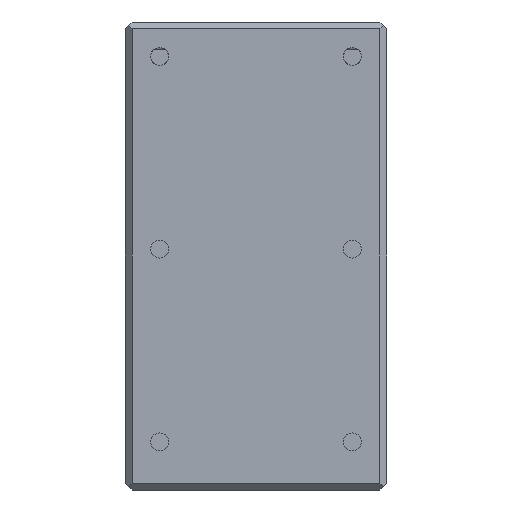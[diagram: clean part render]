
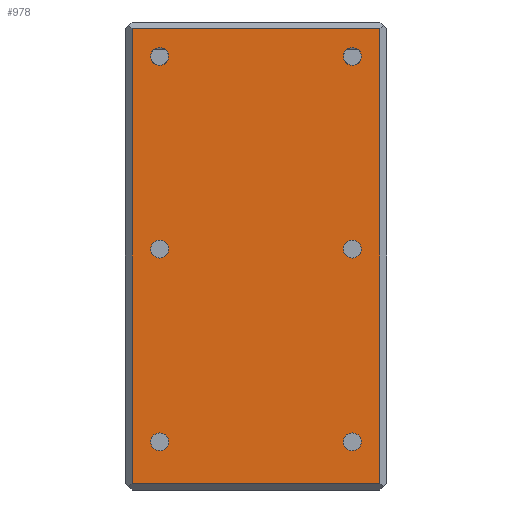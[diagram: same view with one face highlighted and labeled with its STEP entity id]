
A CAD part, front view. The second image highlights one B-rep face of the part: STEP entity #978.
In plain terms, the highlighted planar face has unit normal (0, -1, 0) as drawn and (0, 0, 1) by its records, which use the part's own axes.
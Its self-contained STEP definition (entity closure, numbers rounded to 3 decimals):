
#531=FACE_BOUND('',#3451,.T.);
#532=FACE_BOUND('',#3452,.T.);
#533=FACE_BOUND('',#3453,.T.);
#534=FACE_BOUND('',#3454,.T.);
#535=FACE_BOUND('',#3455,.T.);
#536=FACE_BOUND('',#3456,.T.);
#537=FACE_BOUND('',#3457,.T.);
#794=CIRCLE('',#17383,1.297);
#808=CIRCLE('',#17414,1.297);
#810=CIRCLE('',#17417,1.297);
#817=CIRCLE('',#17431,1.297);
#829=CIRCLE('',#17457,1.297);
#830=CIRCLE('',#17459,1.297);
#978=ADVANCED_FACE('',(#531,#532,#533,#534,#535,#536,#537),#1870,.T.);
#1870=PLANE('',#17460);
#3451=EDGE_LOOP('',(#5294));
#3452=EDGE_LOOP('',(#5295));
#3453=EDGE_LOOP('',(#5296));
#3454=EDGE_LOOP('',(#5297));
#3455=EDGE_LOOP('',(#5298));
#3456=EDGE_LOOP('',(#5299));
#3457=EDGE_LOOP('',(#5300,#5301,#5302,#5303));
#5294=ORIENTED_EDGE('',*,*,#11420,.T.);
#5295=ORIENTED_EDGE('',*,*,#11419,.T.);
#5296=ORIENTED_EDGE('',*,*,#11399,.T.);
#5297=ORIENTED_EDGE('',*,*,#11390,.T.);
#5298=ORIENTED_EDGE('',*,*,#11388,.T.);
#5299=ORIENTED_EDGE('',*,*,#11367,.T.);
#5300=ORIENTED_EDGE('',*,*,#11328,.T.);
#5301=ORIENTED_EDGE('',*,*,#11358,.T.);
#5302=ORIENTED_EDGE('',*,*,#11320,.T.);
#5303=ORIENTED_EDGE('',*,*,#11341,.T.);
#9724=VERTEX_POINT('',#22326);
#9725=VERTEX_POINT('',#22327);
#9732=VERTEX_POINT('',#22342);
#9733=VERTEX_POINT('',#22344);
#9755=VERTEX_POINT('',#22421);
#9768=VERTEX_POINT('',#22473);
#9770=VERTEX_POINT('',#22478);
#9777=VERTEX_POINT('',#22499);
#9790=VERTEX_POINT('',#22546);
#9791=VERTEX_POINT('',#22549);
#11320=EDGE_CURVE('',#9724,#9725,#13594,.T.);
#11328=EDGE_CURVE('',#9733,#9732,#13602,.T.);
#11341=EDGE_CURVE('',#9725,#9733,#13615,.T.);
#11358=EDGE_CURVE('',#9732,#9724,#13625,.T.);
#11367=EDGE_CURVE('',#9755,#9755,#794,.T.);
#11388=EDGE_CURVE('',#9768,#9768,#808,.T.);
#11390=EDGE_CURVE('',#9770,#9770,#810,.T.);
#11399=EDGE_CURVE('',#9777,#9777,#817,.T.);
#11419=EDGE_CURVE('',#9790,#9790,#829,.T.);
#11420=EDGE_CURVE('',#9791,#9791,#830,.T.);
#13594=LINE('',#22325,#15371);
#13602=LINE('',#22343,#15379);
#13615=LINE('',#22366,#15392);
#13625=LINE('',#22402,#15402);
#15371=VECTOR('',#18419,1.);
#15379=VECTOR('',#18429,1.);
#15392=VECTOR('',#18448,1.);
#15402=VECTOR('',#18490,1.);
#17383=AXIS2_PLACEMENT_3D('',#22420,#18511,#18512);
#17414=AXIS2_PLACEMENT_3D('',#22472,#18575,#18576);
#17417=AXIS2_PLACEMENT_3D('',#22477,#18581,#18582);
#17431=AXIS2_PLACEMENT_3D('',#22498,#18609,#18610);
#17457=AXIS2_PLACEMENT_3D('',#22545,#18663,#18664);
#17459=AXIS2_PLACEMENT_3D('',#22548,#18667,#18668);
#17460=AXIS2_PLACEMENT_3D('',#22550,#18669,#18670);
#18419=DIRECTION('',(-1.,0.,0.));
#18429=DIRECTION('',(1.,0.,0.));
#18448=DIRECTION('',(0.,-1.,0.));
#18490=DIRECTION('',(0.,1.,0.));
#18511=DIRECTION('',(0.,0.,-1.));
#18512=DIRECTION('',(0.,1.,0.));
#18575=DIRECTION('',(0.,0.,-1.));
#18576=DIRECTION('',(0.,1.,0.));
#18581=DIRECTION('',(0.,0.,-1.));
#18582=DIRECTION('',(0.,1.,0.));
#18609=DIRECTION('',(0.,0.,-1.));
#18610=DIRECTION('',(0.,1.,0.));
#18663=DIRECTION('',(0.,0.,-1.));
#18664=DIRECTION('',(0.,1.,0.));
#18667=DIRECTION('',(0.,0.,-1.));
#18668=DIRECTION('',(0.,1.,0.));
#18669=DIRECTION('',(0.,0.,1.));
#18670=DIRECTION('',(0.,-1.,0.));
#22325=CARTESIAN_POINT('',(19.,-1.,38.));
#22326=CARTESIAN_POINT('',(37.,-1.,38.));
#22327=CARTESIAN_POINT('',(1.,-1.,38.));
#22342=CARTESIAN_POINT('',(37.,-67.,38.));
#22343=CARTESIAN_POINT('',(19.,-67.,38.));
#22344=CARTESIAN_POINT('',(1.,-67.,38.));
#22366=CARTESIAN_POINT('',(1.,0.,38.));
#22402=CARTESIAN_POINT('',(37.,0.,38.));
#22420=CARTESIAN_POINT('',(5.,-5.,38.));
#22421=CARTESIAN_POINT('',(5.,-3.703,38.));
#22472=CARTESIAN_POINT('',(5.,-33.,38.));
#22473=CARTESIAN_POINT('',(5.,-31.703,38.));
#22477=CARTESIAN_POINT('',(5.,-61.,38.));
#22478=CARTESIAN_POINT('',(5.,-59.703,38.));
#22498=CARTESIAN_POINT('',(33.,-5.,38.));
#22499=CARTESIAN_POINT('',(33.,-3.703,38.));
#22545=CARTESIAN_POINT('',(33.,-33.,38.));
#22546=CARTESIAN_POINT('',(33.,-31.703,38.));
#22548=CARTESIAN_POINT('',(33.,-61.,38.));
#22549=CARTESIAN_POINT('',(33.,-59.703,38.));
#22550=CARTESIAN_POINT('',(19.,0.,38.));
